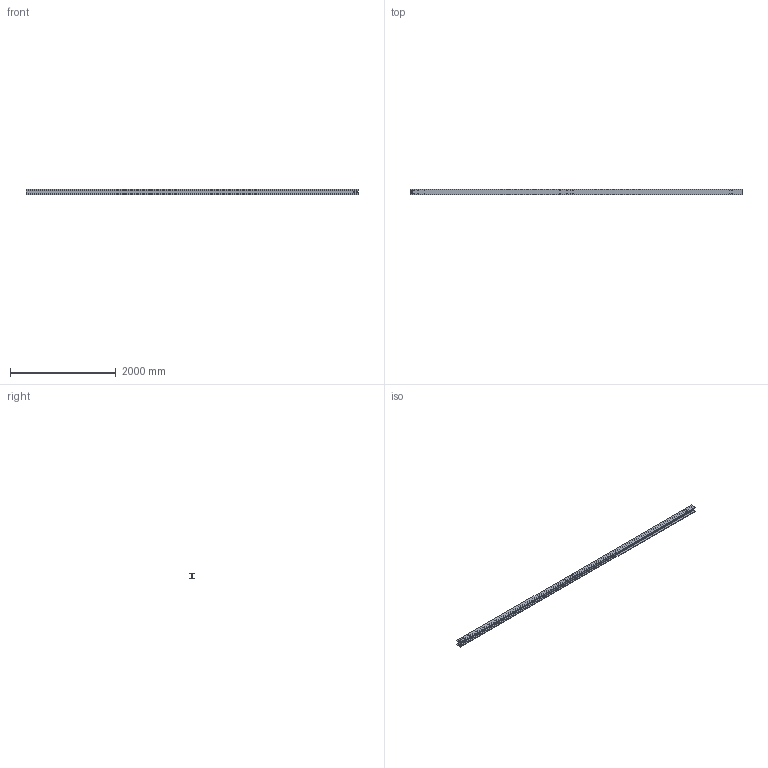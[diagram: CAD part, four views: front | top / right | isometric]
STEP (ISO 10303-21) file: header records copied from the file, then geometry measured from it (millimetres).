
FILE_DESCRIPTION (( 'STEP AP214' ), '1' );
FILE_NAME ('CCJ029-REP.003 - POUTRE A1-B3.STEP', '2025-10-31T14:32:14', ( '' ), ( '' ), 'SwSTEP 2.0', 'SolidWorks 2021', '' );
FILE_SCHEMA (( 'AUTOMOTIVE_DESIGN' ));
Length unit declared in the file: millimetre
Products named in the file (1): CCJ029-REP.003 - POUTRE A1-B3
Bounding box: 6270 x 100 x 100 mm (x, y, z)
Volume: 16291926.5 mm3; surface area: 3565455.9 mm2
Topology: 1 solids, 1 shells, 102 faces, 285 edges, 190 vertices
Faces by surface type: cylinder 48, bspline 32, plane 22
Entity records: 5555 total; most frequent: CARTESIAN_POINT 2930, ORIENTED_EDGE 570, DIRECTION 459, EDGE_CURVE 285, VERTEX_POINT 190, AXIS2_PLACEMENT_3D 167, EDGE_LOOP 151, VECTOR 125
